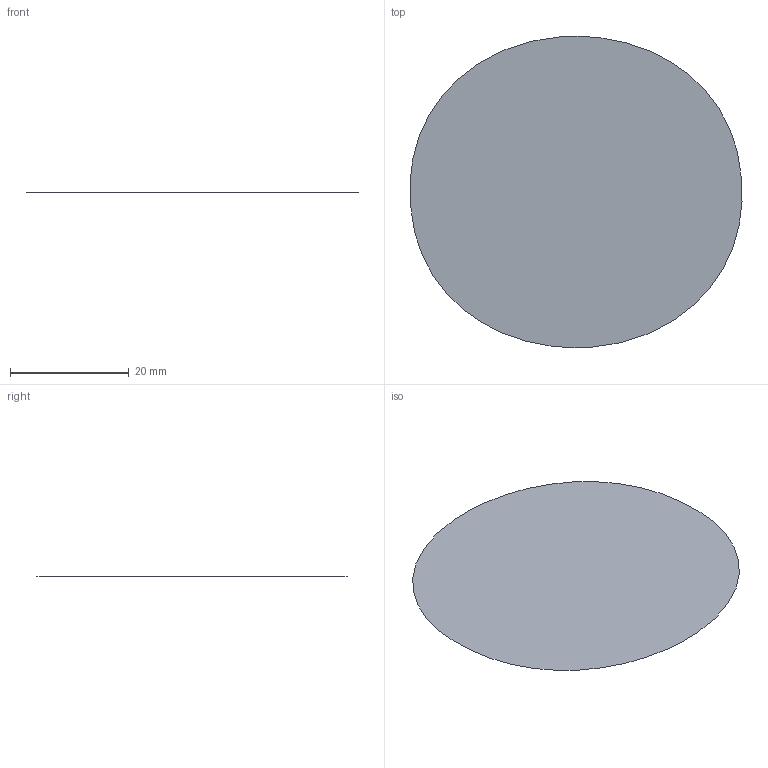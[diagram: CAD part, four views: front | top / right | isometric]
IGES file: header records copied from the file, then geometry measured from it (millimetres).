
Global section: file name: Filename.iges; native system: Open CASCADE 7.9; preprocessor: Open CASCADE IGES processor 7.9; author: HAKAN KARATEKE; date: 20261015.195651; units: millimetre
Bounding box: 56.04 x 52.54 x 0 mm (x, y, z)
Surface area: 2353.6 mm2 (no closed solid volume)
Topology: 0 solids, 0 shells, 1 faces, 4 edges, 4 vertices
Faces by surface type: plane 1
